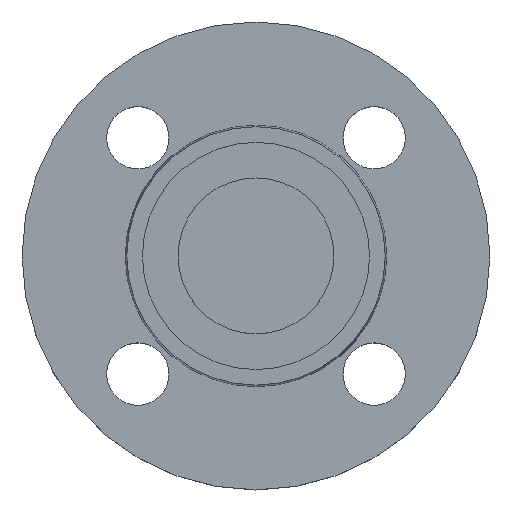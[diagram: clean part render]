
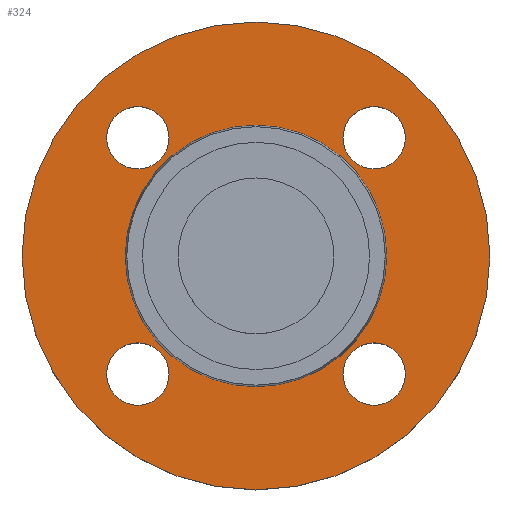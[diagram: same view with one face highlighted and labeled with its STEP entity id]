
A CAD part, top view. The second image highlights one B-rep face of the part: STEP entity #324.
In plain terms, the highlighted planar face has unit normal (0, 0, 1).
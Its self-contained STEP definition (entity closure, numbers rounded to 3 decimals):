
#20 = AXIS2_PLACEMENT_3D ( 'NONE', #304, #305, #307 ) ;
#21 = CARTESIAN_POINT ( 'NONE',  ( -19.517, 26.517, -2. ) ) ;
#26 = CARTESIAN_POINT ( 'NONE',  ( -29.353, 0., -2. ) ) ;
#27 = CARTESIAN_POINT ( 'NONE',  ( 33.517, -26.517, -2. ) ) ;
#34 = DIRECTION ( 'NONE',  ( 1., 0., 0. ) ) ;
#35 = DIRECTION ( 'NONE',  ( 0., 0., -1. ) ) ;
#36 = CARTESIAN_POINT ( 'NONE',  ( 26.517, 26.517, -2. ) ) ;
#40 = CARTESIAN_POINT ( 'NONE',  ( -33.517, 26.517, -2. ) ) ;
#51 = CARTESIAN_POINT ( 'NONE',  ( 29.353, 0., -2. ) ) ;
#72 = VERTEX_POINT ( 'NONE', #635 ) ;
#74 = VERTEX_POINT ( 'NONE', #639 ) ;
#93 = AXIS2_PLACEMENT_3D ( 'NONE', #36, #35, #34 ) ;
#107 = AXIS2_PLACEMENT_3D ( 'NONE', #737, #738, #741 ) ;
#125 = CARTESIAN_POINT ( 'NONE',  ( -52.5, 0., -2. ) ) ;
#126 = CARTESIAN_POINT ( 'NONE',  ( 19.517, -26.517, -2. ) ) ;
#133 = DIRECTION ( 'NONE',  ( 0., 0., -1. ) ) ;
#135 = CIRCLE ( 'NONE', #93, 7. ) ;
#139 = CIRCLE ( 'NONE', #161, 7. ) ;
#145 = AXIS2_PLACEMENT_3D ( 'NONE', #573, #236, #246 ) ;
#147 = EDGE_CURVE ( 'NONE', #567, #615, #407, .T. ) ;
#153 = EDGE_CURVE ( 'NONE', #366, #364, #281, .T. ) ;
#155 = AXIS2_PLACEMENT_3D ( 'NONE', #773, #776, #777 ) ;
#161 = AXIS2_PLACEMENT_3D ( 'NONE', #189, #193, #194 ) ;
#180 = CARTESIAN_POINT ( 'NONE',  ( -33.517, -26.517, -2. ) ) ;
#182 = AXIS2_PLACEMENT_3D ( 'NONE', #758, #760, #761 ) ;
#184 = CARTESIAN_POINT ( 'NONE',  ( -19.517, -26.517, -2. ) ) ;
#185 = CARTESIAN_POINT ( 'NONE',  ( 33.517, 26.517, -2. ) ) ;
#189 = CARTESIAN_POINT ( 'NONE',  ( -26.517, -26.517, -2. ) ) ;
#192 = CIRCLE ( 'NONE', #155, 7. ) ;
#193 = DIRECTION ( 'NONE',  ( 0., 0., -1. ) ) ;
#194 = DIRECTION ( 'NONE',  ( 1., 0., 0. ) ) ;
#200 = AXIS2_PLACEMENT_3D ( 'NONE', #272, #133, #785 ) ;
#236 = DIRECTION ( 'NONE',  ( 0., 0., -1. ) ) ;
#245 = CIRCLE ( 'NONE', #107, 52.5 ) ;
#246 = DIRECTION ( 'NONE',  ( 1., 0., 0. ) ) ;
#248 = AXIS2_PLACEMENT_3D ( 'NONE', #733, #735, #736 ) ;
#260 = AXIS2_PLACEMENT_3D ( 'NONE', #286, #287, #288 ) ;
#272 = CARTESIAN_POINT ( 'NONE',  ( 0., 0., -2. ) ) ;
#277 = EDGE_CURVE ( 'NONE', #616, #579, #542, .T. ) ;
#281 = CIRCLE ( 'NONE', #306, 7. ) ;
#286 = CARTESIAN_POINT ( 'NONE',  ( -26.517, 26.517, -2. ) ) ;
#287 = DIRECTION ( 'NONE',  ( 0., 0., -1. ) ) ;
#288 = DIRECTION ( 'NONE',  ( 1., 0., 0. ) ) ;
#304 = CARTESIAN_POINT ( 'NONE',  ( 26.517, 26.517, -2. ) ) ;
#305 = DIRECTION ( 'NONE',  ( 0., 0., -1. ) ) ;
#306 = AXIS2_PLACEMENT_3D ( 'NONE', #668, #669, #670 ) ;
#307 = DIRECTION ( 'NONE',  ( 1., 0., 0. ) ) ;
#309 = CIRCLE ( 'NONE', #260, 7. ) ;
#310 = EDGE_CURVE ( 'NONE', #74, #568, #245, .T. ) ;
#313 = CIRCLE ( 'NONE', #20, 7. ) ;
#324 = ADVANCED_FACE ( 'NONE', ( #745, #747, #748, #750, #752, #753 ), #757, .T. ) ;
#329 = CARTESIAN_POINT ( 'NONE',  ( 0., 0., -2. ) ) ;
#332 = DIRECTION ( 'NONE',  ( -1., 0., 0. ) ) ;
#333 = DIRECTION ( 'NONE',  ( 0., 0., -1. ) ) ;
#337 = CIRCLE ( 'NONE', #759, 29.353 ) ;
#350 = EDGE_CURVE ( 'NONE', #615, #567, #192, .T. ) ;
#364 = VERTEX_POINT ( 'NONE', #180 ) ;
#366 = VERTEX_POINT ( 'NONE', #184 ) ;
#368 = VERTEX_POINT ( 'NONE', #185 ) ;
#370 = EDGE_CURVE ( 'NONE', #364, #366, #139, .T. ) ;
#406 = CIRCLE ( 'NONE', #200, 52.5 ) ;
#407 = CIRCLE ( 'NONE', #796, 7. ) ;
#460 = ORIENTED_EDGE ( 'NONE', *, *, #350, .T. ) ;
#461 = ORIENTED_EDGE ( 'NONE', *, *, #147, .T. ) ;
#462 = ORIENTED_EDGE ( 'NONE', *, *, #153, .T. ) ;
#463 = ORIENTED_EDGE ( 'NONE', *, *, #370, .T. ) ;
#464 = ORIENTED_EDGE ( 'NONE', *, *, #769, .T. ) ;
#466 = ORIENTED_EDGE ( 'NONE', *, *, #468, .T. ) ;
#467 = ORIENTED_EDGE ( 'NONE', *, *, #601, .T. ) ;
#468 = EDGE_CURVE ( 'NONE', #595, #551, #309, .T. ) ;
#469 = ORIENTED_EDGE ( 'NONE', *, *, #476, .T. ) ;
#473 = ORIENTED_EDGE ( 'NONE', *, *, #277, .T. ) ;
#474 = ORIENTED_EDGE ( 'NONE', *, *, #491, .T. ) ;
#475 = ORIENTED_EDGE ( 'NONE', *, *, #310, .F. ) ;
#476 = EDGE_CURVE ( 'NONE', #72, #368, #313, .T. ) ;
#479 = ORIENTED_EDGE ( 'NONE', *, *, #734, .F. ) ;
#491 = EDGE_CURVE ( 'NONE', #579, #616, #337, .T. ) ;
#521 = EDGE_LOOP ( 'NONE', ( #464, #466 ) ) ;
#542 = CIRCLE ( 'NONE', #248, 29.353 ) ;
#547 = EDGE_LOOP ( 'NONE', ( #467, #469 ) ) ;
#551 = VERTEX_POINT ( 'NONE', #21 ) ;
#555 = EDGE_LOOP ( 'NONE', ( #473, #474 ) ) ;
#567 = VERTEX_POINT ( 'NONE', #126 ) ;
#568 = VERTEX_POINT ( 'NONE', #125 ) ;
#573 = CARTESIAN_POINT ( 'NONE',  ( -26.517, 26.517, -2. ) ) ;
#579 = VERTEX_POINT ( 'NONE', #51 ) ;
#580 = EDGE_LOOP ( 'NONE', ( #462, #463 ) ) ;
#582 = EDGE_LOOP ( 'NONE', ( #475, #479 ) ) ;
#586 = EDGE_LOOP ( 'NONE', ( #460, #461 ) ) ;
#595 = VERTEX_POINT ( 'NONE', #40 ) ;
#601 = EDGE_CURVE ( 'NONE', #368, #72, #135, .T. ) ;
#615 = VERTEX_POINT ( 'NONE', #27 ) ;
#616 = VERTEX_POINT ( 'NONE', #26 ) ;
#635 = CARTESIAN_POINT ( 'NONE',  ( 19.517, 26.517, -2. ) ) ;
#638 = CIRCLE ( 'NONE', #145, 7. ) ;
#639 = CARTESIAN_POINT ( 'NONE',  ( 52.5, 0., -2. ) ) ;
#659 = CARTESIAN_POINT ( 'NONE',  ( 26.517, -26.517, -2. ) ) ;
#660 = DIRECTION ( 'NONE',  ( 0., 0., -1. ) ) ;
#661 = DIRECTION ( 'NONE',  ( 1., 0., 0. ) ) ;
#668 = CARTESIAN_POINT ( 'NONE',  ( -26.517, -26.517, -2. ) ) ;
#669 = DIRECTION ( 'NONE',  ( 0., 0., -1. ) ) ;
#670 = DIRECTION ( 'NONE',  ( 1., 0., 0. ) ) ;
#733 = CARTESIAN_POINT ( 'NONE',  ( 0., 0., -2. ) ) ;
#734 = EDGE_CURVE ( 'NONE', #568, #74, #406, .T. ) ;
#735 = DIRECTION ( 'NONE',  ( 0., 0., -1. ) ) ;
#736 = DIRECTION ( 'NONE',  ( -1., 0., 0. ) ) ;
#737 = CARTESIAN_POINT ( 'NONE',  ( 0., 0., -2. ) ) ;
#738 = DIRECTION ( 'NONE',  ( 0., 0., -1. ) ) ;
#741 = DIRECTION ( 'NONE',  ( -1., 0., 0. ) ) ;
#745 = FACE_BOUND ( 'NONE', #586, .T. ) ;
#747 = FACE_BOUND ( 'NONE', #580, .T. ) ;
#748 = FACE_BOUND ( 'NONE', #521, .T. ) ;
#750 = FACE_BOUND ( 'NONE', #547, .T. ) ;
#752 = FACE_BOUND ( 'NONE', #555, .T. ) ;
#753 = FACE_OUTER_BOUND ( 'NONE', #582, .T. ) ;
#757 = PLANE ( 'NONE',  #182 ) ;
#758 = CARTESIAN_POINT ( 'NONE',  ( 29.353, 0., -2. ) ) ;
#759 = AXIS2_PLACEMENT_3D ( 'NONE', #329, #333, #332 ) ;
#760 = DIRECTION ( 'NONE',  ( 0., 0., 1. ) ) ;
#761 = DIRECTION ( 'NONE',  ( 1., 0., 0. ) ) ;
#769 = EDGE_CURVE ( 'NONE', #551, #595, #638, .T. ) ;
#773 = CARTESIAN_POINT ( 'NONE',  ( 26.517, -26.517, -2. ) ) ;
#776 = DIRECTION ( 'NONE',  ( 0., 0., -1. ) ) ;
#777 = DIRECTION ( 'NONE',  ( 1., 0., 0. ) ) ;
#785 = DIRECTION ( 'NONE',  ( -1., 0., 0. ) ) ;
#796 = AXIS2_PLACEMENT_3D ( 'NONE', #659, #660, #661 ) ;
